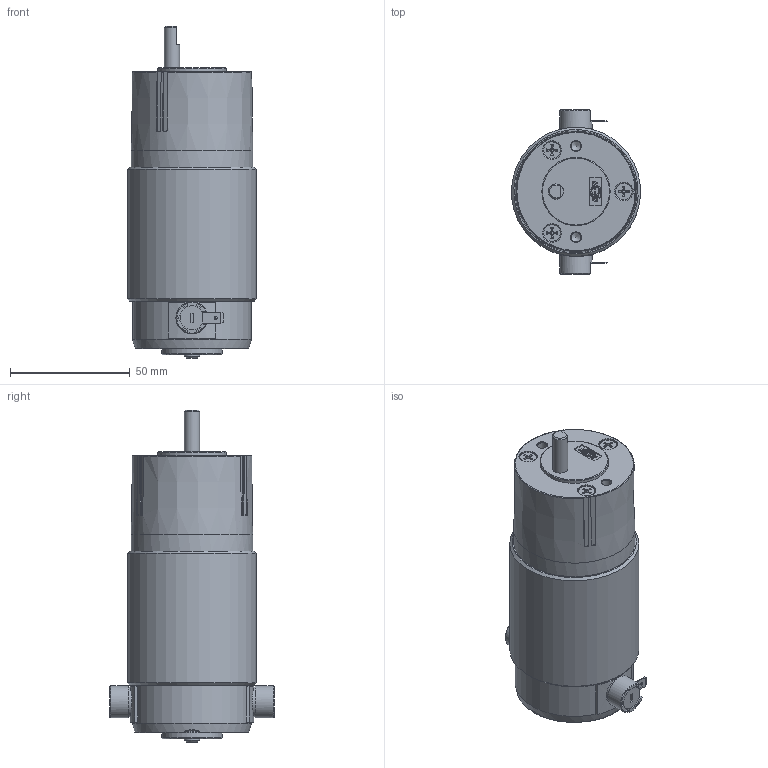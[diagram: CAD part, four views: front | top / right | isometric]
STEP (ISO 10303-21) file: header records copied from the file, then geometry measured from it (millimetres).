
FILE_DESCRIPTION((''),'2;1');
FILE_NAME('Z:\4_DC\새 폴더\RS5 SERIES\RS52ㅁㅁTㅁ.stp','2015-03-25T17:19:39',('kdhkdh'),(''),'Autodesk Inventor 2013','Autodesk Inventor 2013','');
FILE_SCHEMA(('AUTOMOTIVE_DESIGN { 1 0 10303 214 1 1 1 1 }'));
Length unit declared in the file: millimetre
Products named in the file (1): 부품2
Bounding box: 53.85 x 68.58 x 138.75 mm (x, y, z)
Volume: 251217.1 mm3; surface area: 25919.4 mm2
Topology: 1 solids, 3 shells, 490 faces, 1297 edges, 849 vertices
Faces by surface type: plane 279, cylinder 136, cone 49, torus 24, bspline 2
Full cylindrical faces by diameter (mm): 1.3 x2, 3 x3, 3.962 x2, 4 x2, 4.2 x2, 6.34 x2, 6.9 x3, 7.8 x3, 8 x2, 13.4 x2, 25.4 x1, 28.575 x1, 49.6 x1, 50.8 x1, 53.98 x1
Entity records: 15604 total; most frequent: CARTESIAN_POINT 3861, ORIENTED_EDGE 2424, DIRECTION 2336, EDGE_CURVE 1212, AXIS2_PLACEMENT_3D 836, VERTEX_POINT 819, VECTOR 664, LINE 664
